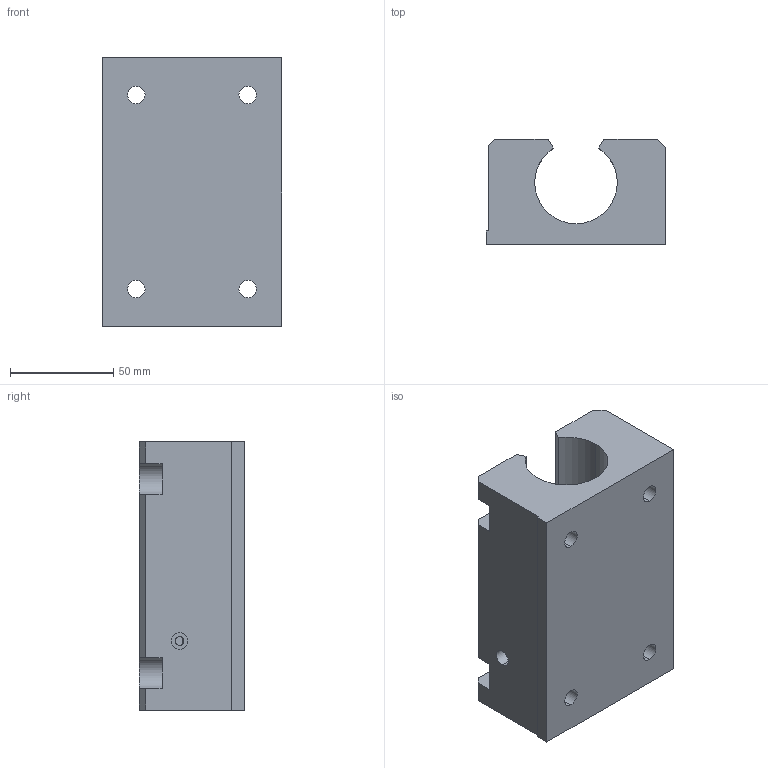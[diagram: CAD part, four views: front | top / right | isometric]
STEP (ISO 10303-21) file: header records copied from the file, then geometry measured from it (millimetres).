
FILE_DESCRIPTION (( 'STEP AP214' ), '1' );
FILE_NAME ('KTGO87-I-25.step', '2020-03-04T13:32:36', ( '' ), ( '' ), 'SwSTEP 2.0', 'SolidWorks 2019', '' );
FILE_SCHEMA (( 'AUTOMOTIVE_DESIGN' ));
Length unit declared in the file: millimetre
Products named in the file (1): KTGO87-I-25
Bounding box: 87 x 51 x 130 mm (x, y, z)
Volume: 373002 mm3; surface area: 59678.4 mm2
Topology: 1 solids, 1 shells, 60 faces, 170 edges, 112 vertices
Faces by surface type: plane 31, cylinder 27, cone 2
Entity records: 2312 total; most frequent: CARTESIAN_POINT 509, ORIENTED_EDGE 340, DIRECTION 330, EDGE_CURVE 170, VECTOR 112, LINE 112, VERTEX_POINT 112, AXIS2_PLACEMENT_3D 109
